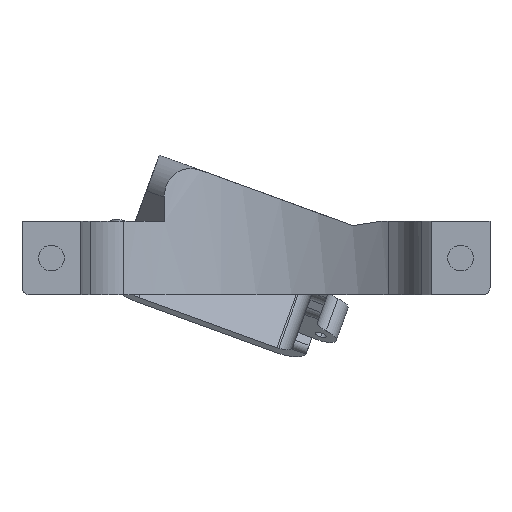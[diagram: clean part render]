
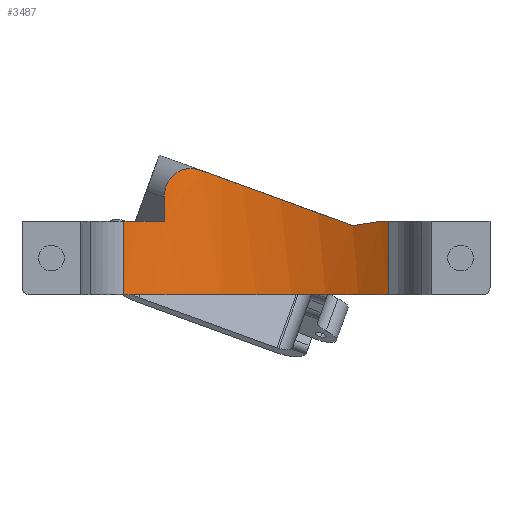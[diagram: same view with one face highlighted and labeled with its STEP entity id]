
A CAD part, front view. The second image highlights one B-rep face of the part: STEP entity #3487.
In plain terms, the highlighted cylindrical face has radius 30 mm (diameter 60 mm), a partial arc.
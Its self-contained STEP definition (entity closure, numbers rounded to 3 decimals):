
#98 = VERTEX_POINT ( 'NONE', #4080 ) ;
#158 = CARTESIAN_POINT ( 'NONE',  ( -12.5, 27.272, 3.295 ) ) ;
#192 = AXIS2_PLACEMENT_3D ( 'NONE', #5738, #5268, #4850 ) ;
#207 = VERTEX_POINT ( 'NONE', #4139 ) ;
#246 = ORIENTED_EDGE ( 'NONE', *, *, #4500, .T. ) ;
#275 = CARTESIAN_POINT ( 'NONE',  ( -12.5, 27.272, 3.295 ) ) ;
#317 = CYLINDRICAL_SURFACE ( 'NONE', #192, 30. ) ;
#329 = CARTESIAN_POINT ( 'NONE',  ( 17.993, 24.006, -10. ) ) ;
#335 = CARTESIAN_POINT ( 'NONE',  ( -12.334, 27.347, 4.54 ) ) ;
#399 = ORIENTED_EDGE ( 'NONE', *, *, #1375, .T. ) ;
#463 = VECTOR ( 'NONE', #2117, 1000. ) ;
#476 = AXIS2_PLACEMENT_3D ( 'NONE', #1917, #2399, #4219 ) ;
#542 = CARTESIAN_POINT ( 'NONE',  ( 17., 24.718, 0. ) ) ;
#610 = ORIENTED_EDGE ( 'NONE', *, *, #1205, .F. ) ;
#629 = VERTEX_POINT ( 'NONE', #1750 ) ;
#689 = CARTESIAN_POINT ( 'NONE',  ( -11.801, 27.582, 5.658 ) ) ;
#766 = CIRCLE ( 'NONE', #3036, 30. ) ;
#1016 = DIRECTION ( 'NONE',  ( 1., 0., 0. ) ) ;
#1205 = EDGE_CURVE ( 'NONE', #5635, #98, #3422, .T. ) ;
#1347 = AXIS2_PLACEMENT_3D ( 'NONE', #3288, #3229, #1016 ) ;
#1375 = EDGE_CURVE ( 'NONE', #629, #4997, #1615, .T. ) ;
#1517 = CARTESIAN_POINT ( 'NONE',  ( -0.516, 30.852, 4.399 ) ) ;
#1564 = CARTESIAN_POINT ( 'NONE',  ( -10.448, 28.122, 6.844 ) ) ;
#1569 = EDGE_CURVE ( 'NONE', #207, #5694, #3756, .T. ) ;
#1615 = LINE ( 'NONE', #329, #463 ) ;
#1639 = ORIENTED_EDGE ( 'NONE', *, *, #5127, .T. ) ;
#1745 = B_SPLINE_CURVE_WITH_KNOTS ( 'NONE', 3,
 ( #275, #4875, #3404, #335, #4303, #2479, #3846, #689, #5647, #5230, #2501, #2561, #3823, #1564, #4836, #3941, #2525, #3876, #2058, #5755, #5669, #2096 ),
 .UNSPECIFIED., .F., .F.,
 ( 4, 2, 2, 2, 2, 2, 2, 2, 2, 2, 4 ),
 ( 0., 0.001, 0.002, 0.002, 0.003, 0.004, 0.004, 0.005, 0.006, 0.007, 0.008 ),
 .UNSPECIFIED. ) ;
#1750 = CARTESIAN_POINT ( 'NONE',  ( 17.993, 24.006, -10. ) ) ;
#1917 = CARTESIAN_POINT ( 'NONE',  ( 0., 0., 0. ) ) ;
#2058 = CARTESIAN_POINT ( 'NONE',  ( -8.699, 28.713, 7.202 ) ) ;
#2096 = CARTESIAN_POINT ( 'NONE',  ( -7.506, 29.046, 6.944 ) ) ;
#2117 = DIRECTION ( 'NONE',  ( 0., 0., 1. ) ) ;
#2399 = DIRECTION ( 'NONE',  ( 0., 0., -1. ) ) ;
#2420 = CARTESIAN_POINT ( 'NONE',  ( 13.156, 26.962, -0.577 ) ) ;
#2479 = CARTESIAN_POINT ( 'NONE',  ( -12.037, 27.48, 5.261 ) ) ;
#2501 = CARTESIAN_POINT ( 'NONE',  ( -11.204, 27.83, 6.35 ) ) ;
#2525 = CARTESIAN_POINT ( 'NONE',  ( -9.598, 28.425, 7.139 ) ) ;
#2561 = CARTESIAN_POINT ( 'NONE',  ( -10.84, 27.974, 6.618 ) ) ;
#2710 = ORIENTED_EDGE ( 'NONE', *, *, #3837, .F. ) ;
#2799 = CARTESIAN_POINT ( 'NONE',  ( -17.993, 24.006, -10. ) ) ;
#2805 = CARTESIAN_POINT ( 'NONE',  ( 15.775, 25.561, -0.184 ) ) ;
#2824 = LINE ( 'NONE', #4682, #3900 ) ;
#2882 = CARTESIAN_POINT ( 'NONE',  ( 13.156, 26.962, -0.577 ) ) ;
#2895 = CARTESIAN_POINT ( 'NONE',  ( 17.993, 24.006, 0. ) ) ;
#2901 =( BOUNDED_CURVE ( )  B_SPLINE_CURVE ( 3, ( #2882, #5182, #1517, #5601 ),
 .UNSPECIFIED., .F., .T. ) 
 B_SPLINE_CURVE_WITH_KNOTS ( ( 4, 4 ),
 ( 4.258, 4.965 ),
 .UNSPECIFIED. ) 
 CURVE ( )  GEOMETRIC_REPRESENTATION_ITEM ( )  RATIONAL_B_SPLINE_CURVE ( ( 1., 0.959, 0.959, 1. ) ) 
 REPRESENTATION_ITEM ( '' )  );
#2972 = VERTEX_POINT ( 'NONE', #3970 ) ;
#2997 = VERTEX_POINT ( 'NONE', #158 ) ;
#3036 = AXIS2_PLACEMENT_3D ( 'NONE', #4804, #4352, #4324 ) ;
#3046 = CARTESIAN_POINT ( 'NONE',  ( -17.993, 24.006, 0. ) ) ;
#3227 = ORIENTED_EDGE ( 'NONE', *, *, #1569, .F. ) ;
#3229 = DIRECTION ( 'NONE',  ( 0., 0., -1. ) ) ;
#3288 = CARTESIAN_POINT ( 'NONE',  ( 0., 0., 0. ) ) ;
#3357 = EDGE_CURVE ( 'NONE', #5635, #2972, #2901, .T. ) ;
#3404 = CARTESIAN_POINT ( 'NONE',  ( -12.467, 27.287, 3.927 ) ) ;
#3422 =( BOUNDED_CURVE ( )  B_SPLINE_CURVE ( 3, ( #2420, #5474, #2805, #542 ),
 .UNSPECIFIED., .F., .T. ) 
 B_SPLINE_CURVE_WITH_KNOTS ( ( 4, 4 ),
 ( 5.166, 5.315 ),
 .UNSPECIFIED. ) 
 CURVE ( )  GEOMETRIC_REPRESENTATION_ITEM ( )  RATIONAL_B_SPLINE_CURVE ( ( 1., 0.998, 0.998, 1. ) ) 
 REPRESENTATION_ITEM ( '' )  );
#3487 = ADVANCED_FACE ( 'NONE', ( #3503 ), #317, .F. ) ;
#3503 = FACE_OUTER_BOUND ( 'NONE', #4122, .T. ) ;
#3652 = ORIENTED_EDGE ( 'NONE', *, *, #4097, .F. ) ;
#3692 = VECTOR ( 'NONE', #5497, 1000. ) ;
#3731 = VERTEX_POINT ( 'NONE', #5063 ) ;
#3756 = LINE ( 'NONE', #2799, #3692 ) ;
#3823 = CARTESIAN_POINT ( 'NONE',  ( -10.711, 28.023, 6.7 ) ) ;
#3837 = EDGE_CURVE ( 'NONE', #2997, #2972, #1745, .T. ) ;
#3846 = CARTESIAN_POINT ( 'NONE',  ( -11.963, 27.512, 5.397 ) ) ;
#3876 = CARTESIAN_POINT ( 'NONE',  ( -9.002, 28.619, 7.206 ) ) ;
#3900 = VECTOR ( 'NONE', #5524, 1000. ) ;
#3941 = CARTESIAN_POINT ( 'NONE',  ( -9.895, 28.323, 7.068 ) ) ;
#3970 = CARTESIAN_POINT ( 'NONE',  ( -7.506, 29.046, 6.944 ) ) ;
#4080 = CARTESIAN_POINT ( 'NONE',  ( 17., 24.718, 0. ) ) ;
#4097 = EDGE_CURVE ( 'NONE', #98, #4997, #4765, .T. ) ;
#4122 = EDGE_LOOP ( 'NONE', ( #246, #4414, #3227, #1639, #399, #3652, #610, #4832, #2710 ) ) ;
#4139 = CARTESIAN_POINT ( 'NONE',  ( -17.993, 24.006, -10. ) ) ;
#4219 = DIRECTION ( 'NONE',  ( 1., 0., 0. ) ) ;
#4303 = CARTESIAN_POINT ( 'NONE',  ( -12.233, 27.393, 4.842 ) ) ;
#4324 = DIRECTION ( 'NONE',  ( 1., 0., 0. ) ) ;
#4352 = DIRECTION ( 'NONE',  ( 0., 0., -1. ) ) ;
#4414 = ORIENTED_EDGE ( 'NONE', *, *, #5038, .F. ) ;
#4500 = EDGE_CURVE ( 'NONE', #2997, #3731, #2824, .T. ) ;
#4682 = CARTESIAN_POINT ( 'NONE',  ( -12.5, 27.272, 9. ) ) ;
#4765 = CIRCLE ( 'NONE', #1347, 30. ) ;
#4804 = CARTESIAN_POINT ( 'NONE',  ( 0., 0., -10. ) ) ;
#4832 = ORIENTED_EDGE ( 'NONE', *, *, #3357, .T. ) ;
#4836 = CARTESIAN_POINT ( 'NONE',  ( -10.312, 28.172, 6.907 ) ) ;
#4850 = DIRECTION ( 'NONE',  ( -1., 0., 0. ) ) ;
#4855 = CIRCLE ( 'NONE', #476, 30. ) ;
#4875 = CARTESIAN_POINT ( 'NONE',  ( -12.5, 27.272, 3.614 ) ) ;
#4997 = VERTEX_POINT ( 'NONE', #2895 ) ;
#5038 = EDGE_CURVE ( 'NONE', #5694, #3731, #4855, .T. ) ;
#5063 = CARTESIAN_POINT ( 'NONE',  ( -12.5, 27.272, 0. ) ) ;
#5127 = EDGE_CURVE ( 'NONE', #207, #629, #766, .T. ) ;
#5182 = CARTESIAN_POINT ( 'NONE',  ( 6.667, 30.128, 1.785 ) ) ;
#5230 = CARTESIAN_POINT ( 'NONE',  ( -11.422, 27.741, 6.142 ) ) ;
#5268 = DIRECTION ( 'NONE',  ( 0., 0., 1. ) ) ;
#5474 = CARTESIAN_POINT ( 'NONE',  ( 14.492, 26.31, -0.376 ) ) ;
#5497 = DIRECTION ( 'NONE',  ( 0., 0., 1. ) ) ;
#5524 = DIRECTION ( 'NONE',  ( 0., 0., -1. ) ) ;
#5601 = CARTESIAN_POINT ( 'NONE',  ( -7.506, 29.046, 6.944 ) ) ;
#5635 = VERTEX_POINT ( 'NONE', #5819 ) ;
#5647 = CARTESIAN_POINT ( 'NONE',  ( -11.711, 27.62, 5.784 ) ) ;
#5669 = CARTESIAN_POINT ( 'NONE',  ( -7.797, 28.971, 7.049 ) ) ;
#5694 = VERTEX_POINT ( 'NONE', #3046 ) ;
#5738 = CARTESIAN_POINT ( 'NONE',  ( 0., 0., -10. ) ) ;
#5755 = CARTESIAN_POINT ( 'NONE',  ( -8.093, 28.889, 7.123 ) ) ;
#5819 = CARTESIAN_POINT ( 'NONE',  ( 13.156, 26.962, -0.577 ) ) ;
